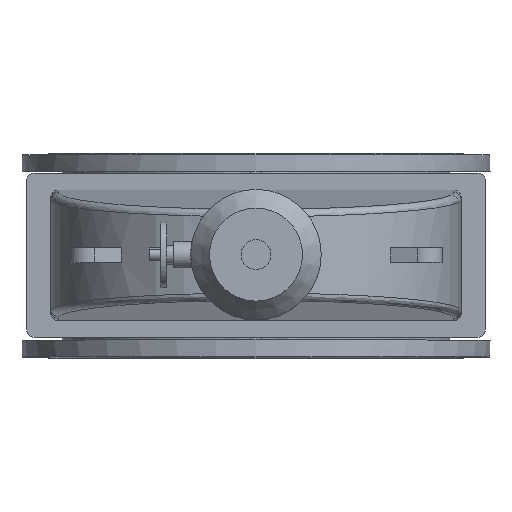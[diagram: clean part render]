
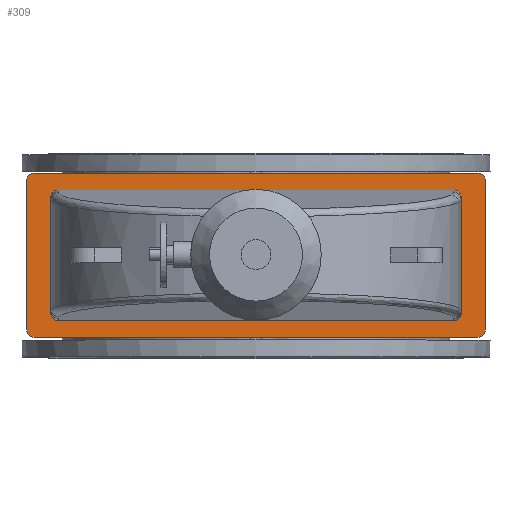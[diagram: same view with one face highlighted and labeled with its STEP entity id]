
A CAD part, top view. The second image highlights one B-rep face of the part: STEP entity #309.
In plain terms, the highlighted planar face has unit normal (0, 0, 1).
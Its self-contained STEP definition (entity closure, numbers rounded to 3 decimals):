
#309=ADVANCED_FACE('',(#3582,#3584),#3586,.T.);
#3582=FACE_BOUND('',#3583,.T.);
#3583=EDGE_LOOP('',(#8146,#8147,#8148,#8149,#8150,#8151,#8152,#8153));
#3584=FACE_BOUND('',#3585,.T.);
#3585=EDGE_LOOP('',(#8154,#8155,#8156,#8157,#8158,#8159,#8160,#8161));
#3586=PLANE('',#3587);
#3587=AXIS2_PLACEMENT_3D('',#3588,#3589,#3590);
#3588=CARTESIAN_POINT('',(0.,0.,1086.));
#3589=DIRECTION('',(0.,-0.,1.));
#3590=DIRECTION('',(0.,1.,0.));
#8146=ORIENTED_EDGE('',*,*,#9436,.F.);
#8147=ORIENTED_EDGE('',*,*,#9437,.T.);
#8148=ORIENTED_EDGE('',*,*,#9438,.F.);
#8149=ORIENTED_EDGE('',*,*,#9439,.T.);
#8150=ORIENTED_EDGE('',*,*,#9440,.F.);
#8151=ORIENTED_EDGE('',*,*,#9441,.T.);
#8152=ORIENTED_EDGE('',*,*,#9442,.F.);
#8153=ORIENTED_EDGE('',*,*,#9443,.T.);
#8154=ORIENTED_EDGE('',*,*,#9434,.F.);
#8155=ORIENTED_EDGE('',*,*,#9433,.F.);
#8156=ORIENTED_EDGE('',*,*,#9435,.F.);
#8157=ORIENTED_EDGE('',*,*,#9408,.F.);
#8158=ORIENTED_EDGE('',*,*,#9444,.F.);
#8159=ORIENTED_EDGE('',*,*,#9445,.F.);
#8160=ORIENTED_EDGE('',*,*,#9446,.F.);
#8161=ORIENTED_EDGE('',*,*,#9401,.F.);
#9401=EDGE_CURVE('',#10092,#10094,#10095,.T.);
#9408=EDGE_CURVE('',#10104,#10102,#10106,.T.);
#9433=EDGE_CURVE('',#10145,#10143,#10147,.T.);
#9434=EDGE_CURVE('',#10143,#10092,#10148,.F.);
#9435=EDGE_CURVE('',#10102,#10145,#10149,.T.);
#9436=EDGE_CURVE('',#10150,#10151,#10152,.F.);
#9437=EDGE_CURVE('',#10150,#10153,#10154,.T.);
#9438=EDGE_CURVE('',#10155,#10153,#10156,.F.);
#9439=EDGE_CURVE('',#10155,#10157,#10158,.T.);
#9440=EDGE_CURVE('',#10159,#10157,#10160,.F.);
#9441=EDGE_CURVE('',#10159,#10161,#10162,.T.);
#9442=EDGE_CURVE('',#10163,#10161,#10164,.F.);
#9443=EDGE_CURVE('',#10163,#10151,#10165,.T.);
#9444=EDGE_CURVE('',#10166,#10104,#10167,.F.);
#9445=EDGE_CURVE('',#10168,#10166,#10169,.T.);
#9446=EDGE_CURVE('',#10094,#10168,#10170,.T.);
#10092=VERTEX_POINT('',#11448);
#10094=VERTEX_POINT('',#11452);
#10095=LINE('',#11453,#11454);
#10102=VERTEX_POINT('',#11473);
#10104=VERTEX_POINT('',#11477);
#10106=LINE('',#11481,#11482);
#10143=VERTEX_POINT('',#11574);
#10145=VERTEX_POINT('',#11578);
#10147=LINE('',#11582,#11583);
#10148=(BOUNDED_CURVE()B_SPLINE_CURVE(3,
(#11585,#11586,#11587,#11588),
.UNSPECIFIED.,.F.,.F.)B_SPLINE_CURVE_WITH_KNOTS((4,4),
(0.,1.),
.UNSPECIFIED.)CURVE()GEOMETRIC_REPRESENTATION_ITEM()RATIONAL_B_SPLINE_CURVE((1.,
0.805,0.805,1.))REPRESENTATION_ITEM(''));
#10149=(BOUNDED_CURVE()B_SPLINE_CURVE(3,
(#11589,#11590,#11591,#11592),
.UNSPECIFIED.,.F.,.F.)B_SPLINE_CURVE_WITH_KNOTS((4,4),
(0.,1.),
.UNSPECIFIED.)CURVE()GEOMETRIC_REPRESENTATION_ITEM()RATIONAL_B_SPLINE_CURVE((1.,
0.805,0.805,1.))REPRESENTATION_ITEM(''));
#10150=VERTEX_POINT('',#11593);
#10151=VERTEX_POINT('',#11594);
#10152=CIRCLE('',#11595,20.);
#10153=VERTEX_POINT('',#11599);
#10154=LINE('',#11600,#11601);
#10155=VERTEX_POINT('',#11603);
#10156=CIRCLE('',#11604,20.);
#10157=VERTEX_POINT('',#11608);
#10158=LINE('',#11609,#11610);
#10159=VERTEX_POINT('',#11612);
#10160=CIRCLE('',#11613,20.);
#10161=VERTEX_POINT('',#11617);
#10162=LINE('',#11618,#11619);
#10163=VERTEX_POINT('',#11621);
#10164=CIRCLE('',#11622,20.);
#10165=LINE('',#11626,#11627);
#10166=VERTEX_POINT('',#11629);
#10167=(BOUNDED_CURVE()B_SPLINE_CURVE(3,
(#11630,#11631,#11632,#11633),
.UNSPECIFIED.,.F.,.F.)B_SPLINE_CURVE_WITH_KNOTS((4,4),
(0.,1.),
.UNSPECIFIED.)CURVE()GEOMETRIC_REPRESENTATION_ITEM()RATIONAL_B_SPLINE_CURVE((1.,
0.805,0.805,1.))REPRESENTATION_ITEM(''));
#10168=VERTEX_POINT('',#11634);
#10169=LINE('',#11635,#11636);
#10170=(BOUNDED_CURVE()B_SPLINE_CURVE(3,
(#11638,#11639,#11640,#11641),
.UNSPECIFIED.,.F.,.F.)B_SPLINE_CURVE_WITH_KNOTS((4,4),
(0.,1.),
.UNSPECIFIED.)CURVE()GEOMETRIC_REPRESENTATION_ITEM()RATIONAL_B_SPLINE_CURVE((1.,
0.805,0.805,1.))REPRESENTATION_ITEM(''));
#11448=CARTESIAN_POINT('',(550.,-154.924,1086.));
#11452=CARTESIAN_POINT('',(550.,154.924,1086.));
#11453=CARTESIAN_POINT('',(550.,-154.924,1086.));
#11454=VECTOR('',#11455,1.);
#11455=DIRECTION('',(0.,1.,0.));
#11473=CARTESIAN_POINT('',(-550.,-154.924,1086.));
#11477=CARTESIAN_POINT('',(-550.,154.924,1086.));
#11481=CARTESIAN_POINT('',(-550.,154.924,1086.));
#11482=VECTOR('',#11483,1.);
#11483=DIRECTION('',(0.,-1.,0.));
#11574=CARTESIAN_POINT('',(530.,-175.,1086.));
#11578=CARTESIAN_POINT('',(-530.,-175.,1086.));
#11582=CARTESIAN_POINT('',(-530.,-175.,1086.));
#11583=VECTOR('',#11584,1.);
#11584=DIRECTION('',(1.,0.,0.));
#11585=CARTESIAN_POINT('',(550.,-154.924,1086.));
#11586=CARTESIAN_POINT('',(550.,-166.684,1086.));
#11587=CARTESIAN_POINT('',(541.716,-175.,1086.));
#11588=CARTESIAN_POINT('',(530.,-175.,1086.));
#11589=CARTESIAN_POINT('',(-550.,-154.924,1086.));
#11590=CARTESIAN_POINT('',(-550.,-166.684,1086.));
#11591=CARTESIAN_POINT('',(-541.716,-175.,1086.));
#11592=CARTESIAN_POINT('',(-530.,-175.,1086.));
#11593=CARTESIAN_POINT('',(-595.,-220.,1086.));
#11594=CARTESIAN_POINT('',(-615.,-200.,1086.));
#11595=AXIS2_PLACEMENT_3D('',#11596,#11597,#11598);
#11596=CARTESIAN_POINT('',(-595.,-200.,1086.));
#11597=DIRECTION('',(0.,-0.,1.));
#11598=DIRECTION('',(-1.,0.,0.));
#11599=CARTESIAN_POINT('',(595.,-220.,1086.));
#11600=CARTESIAN_POINT('',(-595.,-220.,1086.));
#11601=VECTOR('',#11602,1.);
#11602=DIRECTION('',(1.,0.,0.));
#11603=CARTESIAN_POINT('',(615.,-200.,1086.));
#11604=AXIS2_PLACEMENT_3D('',#11605,#11606,#11607);
#11605=CARTESIAN_POINT('',(595.,-200.,1086.));
#11606=DIRECTION('',(0.,-0.,1.));
#11607=DIRECTION('',(0.,-1.,0.));
#11608=CARTESIAN_POINT('',(615.,200.,1086.));
#11609=CARTESIAN_POINT('',(615.,-200.,1086.));
#11610=VECTOR('',#11611,1.);
#11611=DIRECTION('',(0.,1.,0.));
#11612=CARTESIAN_POINT('',(595.,220.,1086.));
#11613=AXIS2_PLACEMENT_3D('',#11614,#11615,#11616);
#11614=CARTESIAN_POINT('',(595.,200.,1086.));
#11615=DIRECTION('',(0.,-0.,1.));
#11616=DIRECTION('',(1.,0.,0.));
#11617=CARTESIAN_POINT('',(-595.,220.,1086.));
#11618=CARTESIAN_POINT('',(595.,220.,1086.));
#11619=VECTOR('',#11620,1.);
#11620=DIRECTION('',(-1.,0.,0.));
#11621=CARTESIAN_POINT('',(-615.,200.,1086.));
#11622=AXIS2_PLACEMENT_3D('',#11623,#11624,#11625);
#11623=CARTESIAN_POINT('',(-595.,200.,1086.));
#11624=DIRECTION('',(0.,-0.,1.));
#11625=DIRECTION('',(0.,1.,0.));
#11626=CARTESIAN_POINT('',(-615.,200.,1086.));
#11627=VECTOR('',#11628,1.);
#11628=DIRECTION('',(0.,-1.,0.));
#11629=CARTESIAN_POINT('',(-530.,175.,1086.));
#11630=CARTESIAN_POINT('',(-550.,154.924,1086.));
#11631=CARTESIAN_POINT('',(-550.,166.684,1086.));
#11632=CARTESIAN_POINT('',(-541.716,175.,1086.));
#11633=CARTESIAN_POINT('',(-530.,175.,1086.));
#11634=CARTESIAN_POINT('',(530.,175.,1086.));
#11635=CARTESIAN_POINT('',(530.,175.,1086.));
#11636=VECTOR('',#11637,1.);
#11637=DIRECTION('',(-1.,0.,0.));
#11638=CARTESIAN_POINT('',(550.,154.924,1086.));
#11639=CARTESIAN_POINT('',(550.,166.684,1086.));
#11640=CARTESIAN_POINT('',(541.716,175.,1086.));
#11641=CARTESIAN_POINT('',(530.,175.,1086.));
